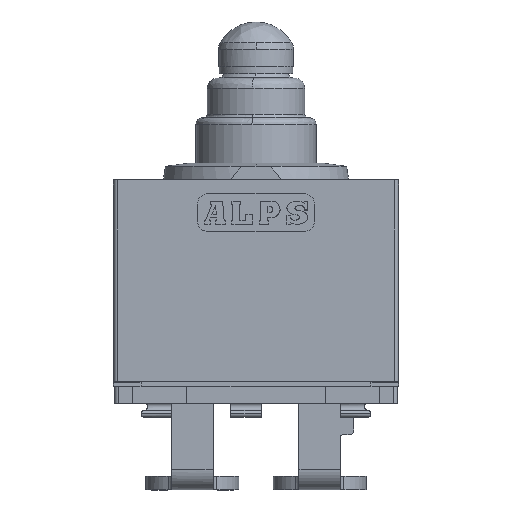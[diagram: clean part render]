
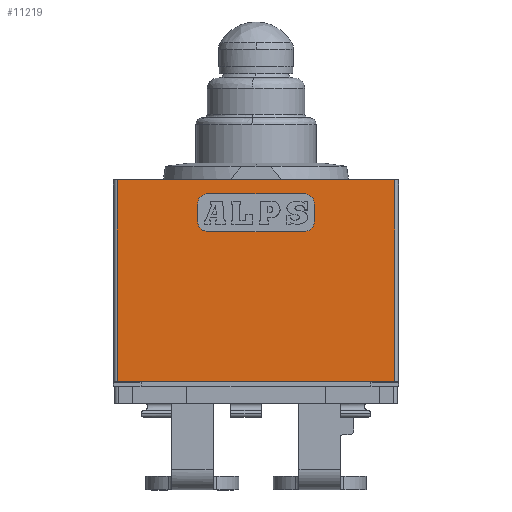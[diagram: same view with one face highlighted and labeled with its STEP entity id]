
A CAD part, top view. The second image highlights one B-rep face of the part: STEP entity #11219.
In plain terms, the highlighted planar face has unit normal (0, 0, 1).
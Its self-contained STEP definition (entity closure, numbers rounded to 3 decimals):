
#13 = DIRECTION ( 'NONE',  ( 0., 0., -1. ) ) ;
#243 = AXIS2_PLACEMENT_3D ( 'NONE', #7398, #13, #8549 ) ;
#268 = ORIENTED_EDGE ( 'NONE', *, *, #7997, .T. ) ;
#323 = LINE ( 'NONE', #10694, #12138 ) ;
#566 = EDGE_LOOP ( 'NONE', ( #4116, #11064, #5198, #8449 ) ) ;
#670 = EDGE_CURVE ( 'NONE', #12741, #4588, #11303, .T. ) ;
#1038 = EDGE_LOOP ( 'NONE', ( #8779, #7413, #11453, #3771, #13997, #13802, #268, #5839 ) ) ;
#1151 = VECTOR ( 'NONE', #6202, 1000. ) ;
#1275 = CARTESIAN_POINT ( 'NONE',  ( -1.4, 5.4, 2.65 ) ) ;
#1323 = DIRECTION ( 'NONE',  ( -1., 0., 0. ) ) ;
#1532 = CARTESIAN_POINT ( 'NONE',  ( -4.031, 1.05, 2.65 ) ) ;
#1545 = VERTEX_POINT ( 'NONE', #14085 ) ;
#1580 = EDGE_CURVE ( 'NONE', #2337, #6805, #6400, .T. ) ;
#2045 = CARTESIAN_POINT ( 'NONE',  ( 4.225, 6.3, 2.65 ) ) ;
#2171 = VERTEX_POINT ( 'NONE', #8704 ) ;
#2216 = AXIS2_PLACEMENT_3D ( 'NONE', #2045, #7061, #14641 ) ;
#2337 = VERTEX_POINT ( 'NONE', #5940 ) ;
#2648 = CIRCLE ( 'NONE', #5681, 0.3 ) ;
#2829 = VECTOR ( 'NONE', #13846, 1000. ) ;
#2894 = CIRCLE ( 'NONE', #8533, 0.3 ) ;
#3224 = CIRCLE ( 'NONE', #243, 0.3 ) ;
#3533 = LINE ( 'NONE', #14242, #12743 ) ;
#3771 = ORIENTED_EDGE ( 'NONE', *, *, #14884, .T. ) ;
#4116 = ORIENTED_EDGE ( 'NONE', *, *, #14651, .T. ) ;
#4385 = LINE ( 'NONE', #5777, #1151 ) ;
#4588 = VERTEX_POINT ( 'NONE', #1532 ) ;
#4590 = LINE ( 'NONE', #8605, #7927 ) ;
#5198 = ORIENTED_EDGE ( 'NONE', *, *, #9156, .T. ) ;
#5529 = VECTOR ( 'NONE', #1323, 1000. ) ;
#5681 = AXIS2_PLACEMENT_3D ( 'NONE', #6849, #6747, #6692 ) ;
#5777 = CARTESIAN_POINT ( 'NONE',  ( 1.7, 6.3, 2.65 ) ) ;
#5839 = ORIENTED_EDGE ( 'NONE', *, *, #12400, .T. ) ;
#5853 = VERTEX_POINT ( 'NONE', #5929 ) ;
#5929 = CARTESIAN_POINT ( 'NONE',  ( -1.7, 6.2, 2.65 ) ) ;
#5940 = CARTESIAN_POINT ( 'NONE',  ( 4.03, 1.05, 2.65 ) ) ;
#6202 = DIRECTION ( 'NONE',  ( 0., -1., 0. ) ) ;
#6400 = LINE ( 'NONE', #13737, #6442 ) ;
#6442 = VECTOR ( 'NONE', #13785, 1000. ) ;
#6623 = DIRECTION ( 'NONE',  ( 0., 0., -1. ) ) ;
#6692 = DIRECTION ( 'NONE',  ( 1., 0., 0. ) ) ;
#6747 = DIRECTION ( 'NONE',  ( 0., 0., -1. ) ) ;
#6805 = VERTEX_POINT ( 'NONE', #11438 ) ;
#6849 = CARTESIAN_POINT ( 'NONE',  ( 1.4, 5.7, 2.65 ) ) ;
#7061 = DIRECTION ( 'NONE',  ( 0., 0., 1. ) ) ;
#7125 = EDGE_CURVE ( 'NONE', #2171, #7492, #2894, .T. ) ;
#7398 = CARTESIAN_POINT ( 'NONE',  ( -1.4, 6.2, 2.65 ) ) ;
#7413 = ORIENTED_EDGE ( 'NONE', *, *, #8484, .T. ) ;
#7492 = VERTEX_POINT ( 'NONE', #13042 ) ;
#7624 = EDGE_CURVE ( 'NONE', #7492, #1545, #4385, .T. ) ;
#7816 = DIRECTION ( 'NONE',  ( 1., 0., 0. ) ) ;
#7927 = VECTOR ( 'NONE', #8548, 1000. ) ;
#7997 = EDGE_CURVE ( 'NONE', #1545, #9827, #2648, .T. ) ;
#8449 = ORIENTED_EDGE ( 'NONE', *, *, #670, .T. ) ;
#8484 = EDGE_CURVE ( 'NONE', #14573, #5853, #11832, .T. ) ;
#8533 = AXIS2_PLACEMENT_3D ( 'NONE', #14342, #14241, #14192 ) ;
#8548 = DIRECTION ( 'NONE',  ( -1., 0., 0. ) ) ;
#8549 = DIRECTION ( 'NONE',  ( 1., 0., 0. ) ) ;
#8605 = CARTESIAN_POINT ( 'NONE',  ( 4.225, 5.4, 2.65 ) ) ;
#8704 = CARTESIAN_POINT ( 'NONE',  ( 1.4, 6.5, 2.65 ) ) ;
#8779 = ORIENTED_EDGE ( 'NONE', *, *, #14175, .T. ) ;
#8909 = CIRCLE ( 'NONE', #14609, 0.3 ) ;
#9156 = EDGE_CURVE ( 'NONE', #6805, #12741, #14423, .T. ) ;
#9577 = DIRECTION ( 'NONE',  ( 1., 0., 0. ) ) ;
#9827 = VERTEX_POINT ( 'NONE', #10165 ) ;
#10165 = CARTESIAN_POINT ( 'NONE',  ( 1.4, 5.4, 2.65 ) ) ;
#10550 = CARTESIAN_POINT ( 'NONE',  ( -4.031, 6.3, 2.65 ) ) ;
#10564 = DIRECTION ( 'NONE',  ( 0., -1., 0. ) ) ;
#10694 = CARTESIAN_POINT ( 'NONE',  ( 4.225, 1.05, 2.65 ) ) ;
#10907 = CARTESIAN_POINT ( 'NONE',  ( 4.225, 6.9, 2.65 ) ) ;
#11064 = ORIENTED_EDGE ( 'NONE', *, *, #1580, .T. ) ;
#11219 = ADVANCED_FACE ( 'NONE', ( #12884, #13179 ), #13540, .T. ) ;
#11291 = VECTOR ( 'NONE', #10564, 1000. ) ;
#11303 = LINE ( 'NONE', #10550, #11291 ) ;
#11438 = CARTESIAN_POINT ( 'NONE',  ( 4.03, 6.9, 2.65 ) ) ;
#11453 = ORIENTED_EDGE ( 'NONE', *, *, #13779, .T. ) ;
#11641 = CARTESIAN_POINT ( 'NONE',  ( -1.7, 5.7, 2.65 ) ) ;
#11832 = LINE ( 'NONE', #13996, #2829 ) ;
#11985 = VERTEX_POINT ( 'NONE', #12103 ) ;
#12103 = CARTESIAN_POINT ( 'NONE',  ( -1.4, 6.5, 2.65 ) ) ;
#12138 = VECTOR ( 'NONE', #9577, 1000. ) ;
#12400 = EDGE_CURVE ( 'NONE', #9827, #13799, #4590, .T. ) ;
#12741 = VERTEX_POINT ( 'NONE', #12812 ) ;
#12743 = VECTOR ( 'NONE', #7816, 1000. ) ;
#12812 = CARTESIAN_POINT ( 'NONE',  ( -4.031, 6.9, 2.65 ) ) ;
#12884 = FACE_OUTER_BOUND ( 'NONE', #566, .T. ) ;
#13042 = CARTESIAN_POINT ( 'NONE',  ( 1.7, 6.2, 2.65 ) ) ;
#13179 = FACE_BOUND ( 'NONE', #1038, .T. ) ;
#13184 = CARTESIAN_POINT ( 'NONE',  ( -1.4, 5.7, 2.65 ) ) ;
#13540 = PLANE ( 'NONE',  #2216 ) ;
#13737 = CARTESIAN_POINT ( 'NONE',  ( 4.03, 6.3, 2.65 ) ) ;
#13779 = EDGE_CURVE ( 'NONE', #5853, #11985, #3224, .T. ) ;
#13785 = DIRECTION ( 'NONE',  ( 0., 1., 0. ) ) ;
#13799 = VERTEX_POINT ( 'NONE', #1275 ) ;
#13802 = ORIENTED_EDGE ( 'NONE', *, *, #7624, .T. ) ;
#13846 = DIRECTION ( 'NONE',  ( 0., 1., 0. ) ) ;
#13996 = CARTESIAN_POINT ( 'NONE',  ( -1.7, 6.3, 2.65 ) ) ;
#13997 = ORIENTED_EDGE ( 'NONE', *, *, #7125, .T. ) ;
#14085 = CARTESIAN_POINT ( 'NONE',  ( 1.7, 5.7, 2.65 ) ) ;
#14175 = EDGE_CURVE ( 'NONE', #13799, #14573, #8909, .T. ) ;
#14192 = DIRECTION ( 'NONE',  ( 1., 0., 0. ) ) ;
#14241 = DIRECTION ( 'NONE',  ( 0., 0., -1. ) ) ;
#14242 = CARTESIAN_POINT ( 'NONE',  ( 4.225, 6.5, 2.65 ) ) ;
#14262 = DIRECTION ( 'NONE',  ( 1., 0., 0. ) ) ;
#14342 = CARTESIAN_POINT ( 'NONE',  ( 1.4, 6.2, 2.65 ) ) ;
#14423 = LINE ( 'NONE', #10907, #5529 ) ;
#14573 = VERTEX_POINT ( 'NONE', #11641 ) ;
#14609 = AXIS2_PLACEMENT_3D ( 'NONE', #13184, #6623, #14262 ) ;
#14641 = DIRECTION ( 'NONE',  ( 1., 0., 0. ) ) ;
#14651 = EDGE_CURVE ( 'NONE', #4588, #2337, #323, .T. ) ;
#14884 = EDGE_CURVE ( 'NONE', #11985, #2171, #3533, .T. ) ;
